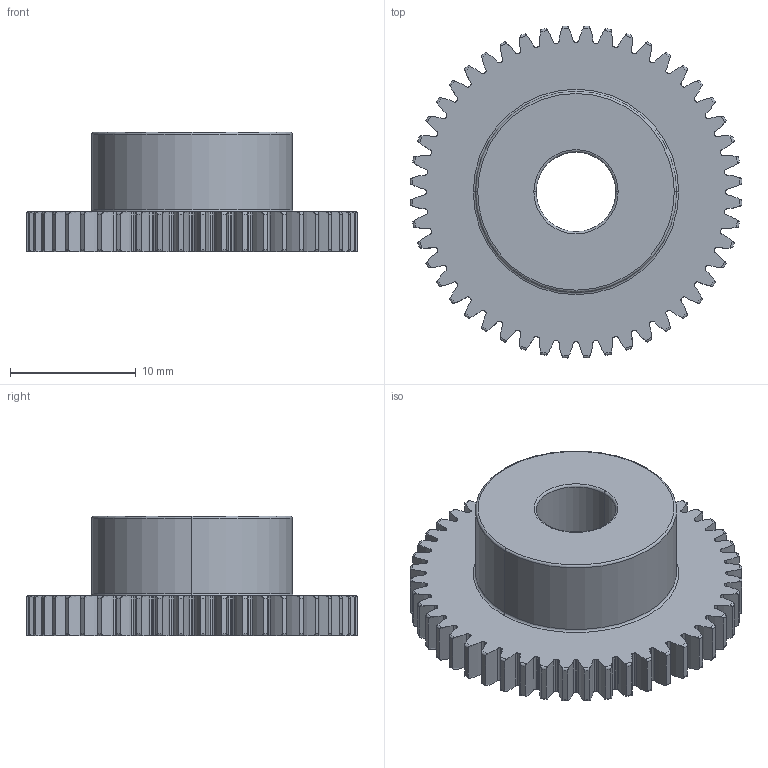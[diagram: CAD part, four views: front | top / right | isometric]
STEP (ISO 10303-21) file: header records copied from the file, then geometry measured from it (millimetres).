
FILE_DESCRIPTION (( 'STEP AP203' ), '1' );
FILE_NAME ('7880K24_Metal Gear - 20 Degree Pressure Angle.STEP', '2026-01-15T00:48:10', ( 'McMaster Carr Supply' ), ( 'McMaster Carr Supply' ), 'SwSTEP 2.0', 'SolidWorks 2024', '' );
FILE_SCHEMA (( 'CONFIG_CONTROL_DESIGN' ));
Length unit declared in the file: inch
Products named in the file (1): 7880K24_Metal Gear - 20 Degree Pressure Angle
Bounding box: 26.43 x 26.43 x 9.53 mm (x, y, z)
Volume: 2568.3 mm3; surface area: 1959.7 mm2
Topology: 1 solids, 1 shells, 422 faces, 1249 edges, 830 vertices
Faces by surface type: cylinder 219, torus 104, bspline 96, plane 3
Entity records: 23062 total; most frequent: CARTESIAN_POINT 12198, ORIENTED_EDGE 2498, DIRECTION 2069, EDGE_CURVE 1249, AXIS2_PLACEMENT_3D 877, VERTEX_POINT 830, CIRCLE 550, EDGE_LOOP 425
